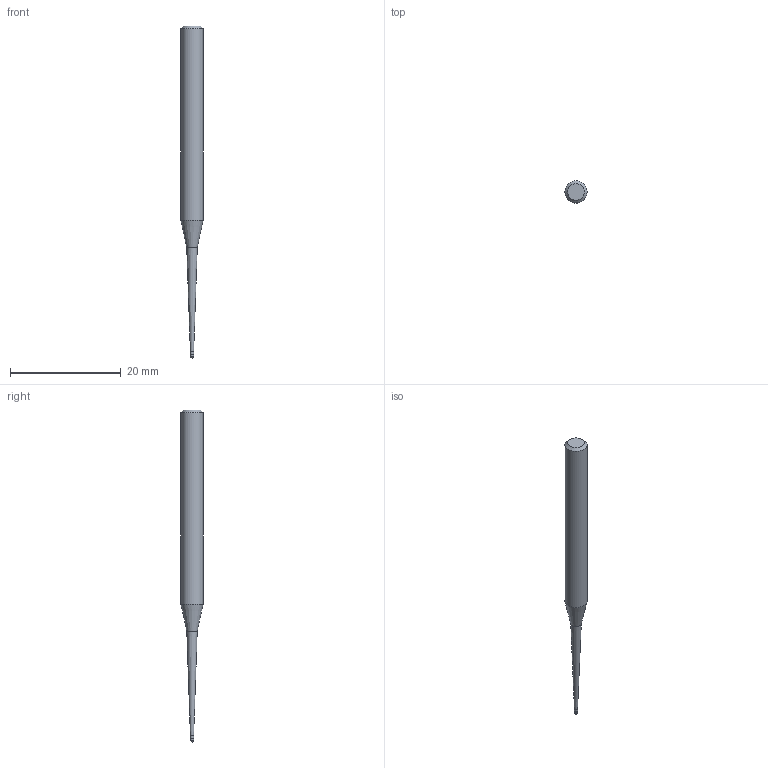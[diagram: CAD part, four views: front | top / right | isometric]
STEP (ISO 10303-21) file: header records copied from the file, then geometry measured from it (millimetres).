
FILE_DESCRIPTION((''),'2;1');
FILE_NAME('C:\Users\nsx150\AppData\Local\Temp\Mastercam 2021\SNAKH10GOD\TEMP.step','2021-10-21T13:31:39',(''),(''),'STEP Write','Mastercam 2021 ... CNC Software, Inc.','');
FILE_SCHEMA(('AUTOMOTIVE_DESIGN'));
Length unit declared in the file: millimetre
Products named in the file (1): None
Bounding box: 4 x 4 x 60 mm (x, y, z)
Volume: 500 mm3; surface area: 572.6 mm2
Topology: 2 solids, 2 shells, 10 faces, 16 edges, 9 vertices
Faces by surface type: plane 3, cylinder 3, cone 3, sphere 1
Full cylindrical faces by diameter (mm): 0.585 x1, 0.6 x1, 4 x1
Entity records: 232 total; most frequent: DIRECTION 40, CARTESIAN_POINT 28, AXIS2_PLACEMENT_3D 20, ORIENTED_EDGE 16, EDGE_LOOP 16, STYLED_ITEM 13, ADVANCED_FACE 10, FACE_BOUND 9
